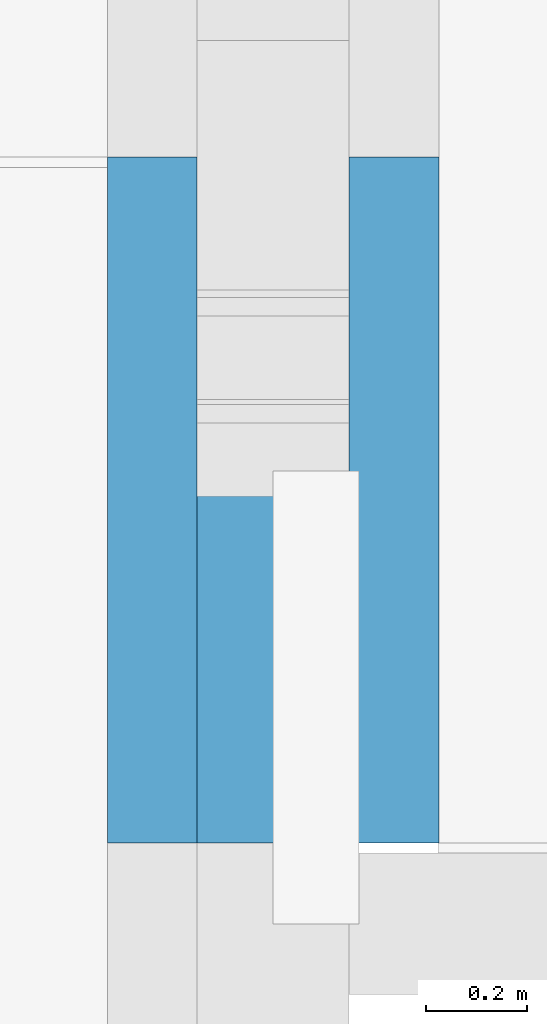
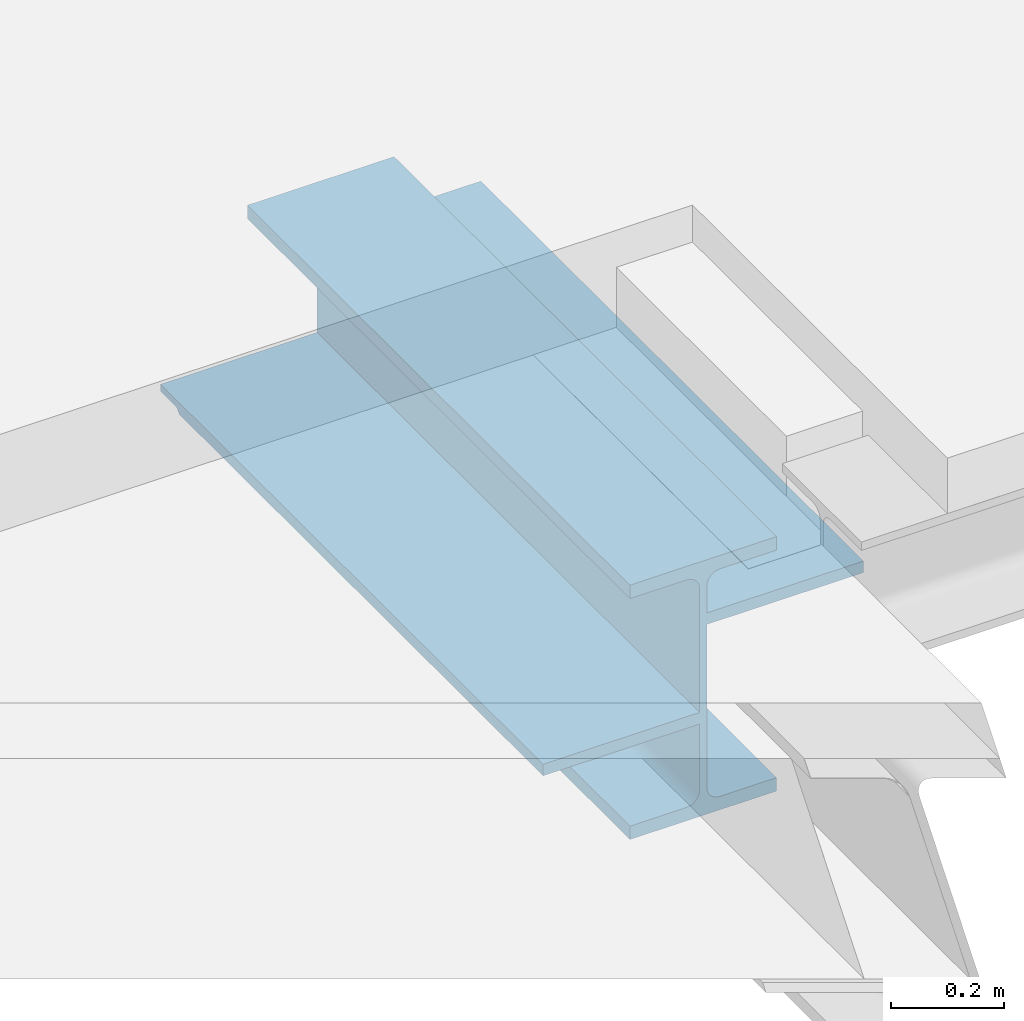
# One storey, part 44 of 50: 1 beam.
"""IFC2X3 building model written with IfcOpenShell, lengths in millimetres."""

from ifc_helpers import new_model, entity, si_unit, converted_unit, derived_unit, direction, frame, origin, place, context, subcontext, project, spatial, faceted_brep, source, transform, mapped, material, material_list, type_object, type_shapes, element, save


model = new_model("IFC2X3")

# Units and contexts
model_context = context("Model", 3, precision=0.01, world=origin(), true_north=direction((6.12303176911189e-17, 1.0)))
body_context = subcontext(model_context, "Body", "Model", "MODEL_VIEW")
ifc_project = project(units=[si_unit("LENGTHUNIT", "METRE", prefix="MILLI"), si_unit("AREAUNIT", "SQUARE_METRE", prefix="MILLI"), si_unit("VOLUMEUNIT", "CUBIC_METRE"), converted_unit("PLANEANGLEUNIT", "DEGREE", entity("IfcRatioMeasure", 0.0174532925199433), si_unit("PLANEANGLEUNIT", "RADIAN"), dimensions=[0, 0, 0, 0, 0, 0, 0]), si_unit("MASSUNIT", "GRAM", prefix="KILO"), derived_unit("MASSDENSITYUNIT", [(si_unit("MASSUNIT", "GRAM", prefix="KILO"), 1), (si_unit("LENGTHUNIT", "METRE"), -3)]), derived_unit("MOMENTOFINERTIAUNIT", [(si_unit("LENGTHUNIT", "METRE"), 4)]), si_unit("TIMEUNIT", "SECOND"), si_unit("FREQUENCYUNIT", "HERTZ"), si_unit("THERMODYNAMICTEMPERATUREUNIT", "DEGREE_CELSIUS"), derived_unit("THERMALTRANSMITTANCEUNIT", [(si_unit("MASSUNIT", "GRAM", prefix="KILO"), 1), (si_unit("THERMODYNAMICTEMPERATUREUNIT", "KELVIN"), -1), (si_unit("TIMEUNIT", "SECOND"), -3)]), derived_unit("VOLUMETRICFLOWRATEUNIT", [(si_unit("LENGTHUNIT", "METRE"), 3), (si_unit("TIMEUNIT", "SECOND"), -1)]), si_unit("ELECTRICCURRENTUNIT", "AMPERE"), si_unit("ELECTRICVOLTAGEUNIT", "VOLT"), si_unit("POWERUNIT", "WATT"), si_unit("FORCEUNIT", "NEWTON", prefix="KILO"), si_unit("ILLUMINANCEUNIT", "LUX"), si_unit("LUMINOUSFLUXUNIT", "LUMEN"), si_unit("LUMINOUSINTENSITYUNIT", "CANDELA"), derived_unit("USERDEFINED", [(si_unit("MASSUNIT", "GRAM", prefix="KILO"), -1), (si_unit("LENGTHUNIT", "METRE"), -2), (si_unit("TIMEUNIT", "SECOND"), 3), (si_unit("LUMINOUSFLUXUNIT", "LUMEN"), 1)]), derived_unit("LINEARVELOCITYUNIT", [(si_unit("LENGTHUNIT", "METRE"), 1), (si_unit("TIMEUNIT", "SECOND"), -1)]), si_unit("PRESSUREUNIT", "PASCAL"), derived_unit("USERDEFINED", [(si_unit("LENGTHUNIT", "METRE"), -2), (si_unit("MASSUNIT", "GRAM", prefix="KILO"), 1), (si_unit("TIMEUNIT", "SECOND"), -2)]), derived_unit("LINEARFORCEUNIT", [(si_unit("MASSUNIT", "GRAM", prefix="KILO"), 1), (si_unit("LENGTHUNIT", "METRE"), 1), (si_unit("TIMEUNIT", "SECOND"), -2), (si_unit("LENGTHUNIT", "METRE"), -1)]), derived_unit("PLANARFORCEUNIT", [(si_unit("MASSUNIT", "GRAM", prefix="KILO"), 1), (si_unit("LENGTHUNIT", "METRE"), 1), (si_unit("TIMEUNIT", "SECOND"), -2), (si_unit("LENGTHUNIT", "METRE"), -2)])], contexts=[model_context])

# Site, building, storey
site_placement = place(None, origin())
site = spatial("IfcSite", under=ifc_project, at=site_placement, Name="Theater aan de Parade", CompositionType="ELEMENT")
building_placement = place(site_placement, origin())
building = spatial("IfcBuilding", under=site, at=building_placement, Name="Theater aan de Parade", CompositionType="ELEMENT")
storey_placement = place(building_placement, frame((0.0, 0.0, 15820.0)))
storey = spatial("IfcBuildingStorey", under=building, at=storey_placement, Name="04 vierde verdieping", CompositionType="ELEMENT", Elevation=15820.0)

# Beam
ifc_material_1 = material(Name="00_PBT_MAT_staal_S355")
ifc_material_2 = material(Name="00_PBT_MAT_Lucht")
ifc_material_list = material_list([ifc_material_2, ifc_material_1])
beam_type = type_object("IfcBeamType", Name="28_PBT_SF_staal_H-profiel_met_oplegstrippen (void):S355_HE550B + oplegstrippen d=25_ h=115/325", PredefinedType="BEAM", material=ifc_material_list)
shared_shape = source(origin(), body_context, "Body", "Brep", [
    faceted_brep([(293.0, 0.0, 29.0), (177.499999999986, 0.0, 29.0), (177.499999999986, 0.0, 0.0), (477.499999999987, 0.0, 0.0), (477.499999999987, 0.0, 29.0), (362.0, 0.0, 29.0), (355.011885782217, 0.0, 29.9200026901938), (348.49999999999, 0.0, 32.6173140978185), (342.908116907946, 0.0, 36.9081169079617), (338.617314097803, 0.0, 42.499999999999), (335.920002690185, 0.0, 49.0118857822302), (335.0, 0.0, 56.0), (335.0, 0.0, 435.0), (335.0, 0.0, 494.0), (335.920002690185, 0.0, 500.988114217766), (338.617314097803, 0.0, 507.499999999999), (342.908116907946, 0.0, 513.091883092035), (348.49999999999, 0.0, 517.382685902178), (355.011885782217, 0.0, 520.079997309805), (362.0, 0.0, 521.0), (477.499999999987, 0.0, 521.0), (477.499999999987, 0.0, 550.0), (327.49999999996, 0.0, 550.0), (177.499999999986, 0.0, 550.0), (177.499999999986, 0.0, 521.0), (293.0, 0.0, 521.0), (299.988114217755, 0.0, 520.079997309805), (306.499999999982, 0.0, 517.38268590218), (312.091883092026, 0.0, 513.091883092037), (316.382685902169, 0.0, 507.499999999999), (319.079997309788, 0.0, 500.988114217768), (320.0, 0.0, 494.0), (320.0, 0.0, 56.0), (319.079997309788, 0.0, 49.0118857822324), (316.382685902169, 0.0, 42.5000000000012), (312.091883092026, 0.0, 36.9081169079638), (306.499999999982, 0.0, 32.6173140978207), (299.988114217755, 0.0, 29.920002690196), (316.382685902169, 1354.80333600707, 507.499999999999), (312.091883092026, 1354.80333600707, 513.091883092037), (306.499999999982, 1354.80333600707, 517.38268590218), (299.988114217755, 1354.80333600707, 520.079997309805), (293.0, 1354.80333600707, 521.0), (177.499999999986, 1354.80333600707, 521.0), (177.499999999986, 1354.80333600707, 550.0), (477.499999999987, 1354.80333600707, 550.0), (477.499999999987, 1354.80333600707, 521.0), (362.0, 1354.80333600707, 521.0), (355.011885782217, 1354.80333600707, 520.079997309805), (348.49999999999, 1354.80333600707, 517.382685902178), (342.908116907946, 1354.80333600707, 513.091883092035), (338.617314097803, 1354.80333600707, 507.499999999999), (335.920002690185, 1354.80333600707, 500.988114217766), (335.0, 1354.80333600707, 494.0), (335.0, 1354.80333600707, 266.0), (335.0, 1354.80333600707, 210.0), (320.0, 1354.80333600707, 210.0), (320.0, 1354.80333600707, 266.0), (320.0, 1354.80333600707, 494.0), (319.079997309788, 1354.80333600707, 500.988114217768), (177.499999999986, 734.80333600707, 550.0), (177.499999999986, 734.80333600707, 521.0), (177.499999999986, 1117.71206565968, 29.0), (177.499999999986, 1088.71206565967, 0.0), (293.0, 1173.36902755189, 521.0), (293.0, 991.934793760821, 521.0), (293.0, 725.737159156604, 521.0), (293.0, 544.302850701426, 521.0), (293.0, 362.868616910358, 521.0), (293.0, 181.434308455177, 521.0), (362.0, 181.430868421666, 521.0), (362.0, 362.870977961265, 521.0), (362.0, 495.970799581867, 521.0), (362.0, 629.070621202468, 521.0), (362.0, 810.501489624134, 521.0), (362.0, 991.9323580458, 521.0), (362.0, 1173.3724675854, 521.0), (477.499999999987, 734.80333600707, 521.0), (303.332452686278, 295.780139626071, 518.944747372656), (309.436558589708, 200.495676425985, 515.420540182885), (301.252913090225, 152.34128538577, 519.707769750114), (317.944747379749, 200.66671762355, 504.332452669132), (309.436558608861, 1154.30765992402, 515.42054016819), (314.420540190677, 130.651466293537, 510.436558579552), (318.311347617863, 346.902101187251, 503.398706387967), (319.515191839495, 272.151429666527, 499.093584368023), (314.42054020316, 1176.94936763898, 510.436558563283), (301.252913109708, 1202.46205067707, 519.707769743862), (301.812218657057, 795.284989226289, 519.521457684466), (299.442713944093, 544.302860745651, 520.2200579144), (308.882992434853, 931.507483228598, 515.834160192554), (303.332452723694, 1059.02319617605, 518.944747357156), (318.847848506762, 654.291639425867, 501.803122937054), (319.575310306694, 429.417977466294, 498.769998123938), (318.314601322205, 495.967382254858, 503.389939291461), (319.59614650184, 127.647156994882, 498.652417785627), (320.0, 181.433990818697, 494.0), (314.42054022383, 925.629728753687, 510.436558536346), (314.42054019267, 296.310558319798, 510.436558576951), (314.805492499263, 559.744227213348, 509.922326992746), (304.643130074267, 492.161807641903, 518.360573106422), (309.436558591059, 534.387352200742, 515.420540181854), (308.221425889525, 367.441514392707, 516.300407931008), (317.944747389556, 1103.96152209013, 504.332452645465), (298.089963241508, 917.577526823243, 520.515887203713), (297.839520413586, 1082.65190596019, 520.562737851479), (297.839520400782, 272.15143046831, 520.562737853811), (318.739096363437, 969.619190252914, 502.154686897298), (319.56379797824, 1082.65190702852, 498.833698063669), (320.0, 991.934907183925, 494.0), (319.597861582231, 1227.47854276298, 498.642602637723), (305.90430017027, 668.438270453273, 517.716640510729), (318.762311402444, 819.592130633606, 502.081046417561), (317.082339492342, 892.715532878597, 506.208231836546), (316.776591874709, 709.694384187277, 506.793501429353), (320.0, 362.868428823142, 494.0), (311.721009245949, 737.803270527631, 513.455688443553), (320.0, 810.500469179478, 494.0), (320.0, 1173.36889800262, 494.0), (300.07107585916, 400.87812739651, 520.057626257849), (320.0, 629.066031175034, 494.0), (320.0, 495.967453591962, 494.0), (320.0, 1298.71206565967, 210.0), (320.0, 1144.71206565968, 56.0), (320.0, 963.278060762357, 56.0), (320.0, 781.843606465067, 56.0), (320.0, 600.409152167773, 56.0), (320.0, 418.974697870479, 56.0), (320.0, 209.487348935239, 56.0), (303.332452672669, 133.73822767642, 31.0552526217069), (302.686071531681, 980.63696176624, 30.7972220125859), (307.439415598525, 984.137476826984, 33.1854590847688), (304.714860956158, 1120.38590622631, 31.6738405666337), (309.436558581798, 178.361362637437, 34.5794598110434), (314.420540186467, 204.693632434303, 39.5634414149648), (311.530853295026, 365.894640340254, 36.3631093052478), (317.944747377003, 137.449371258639, 45.6675473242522), (317.944747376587, 308.520873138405, 45.6675473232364), (312.205167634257, 936.630405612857, 37.0220776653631), (307.527456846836, 820.964049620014, 33.2414192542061), (312.463835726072, 751.594200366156, 37.287461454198), (319.399362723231, 382.169027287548, 50.33663988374), (319.399189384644, 222.985122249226, 50.3358319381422), (312.425062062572, 566.257060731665, 37.2472145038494), (315.566596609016, 436.540278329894, 41.1760761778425), (316.276059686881, 625.96854439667, 42.3169796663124), (315.935800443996, 992.711685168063, 41.7539809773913), (314.10945002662, 1127.87784100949, 39.1657753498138), (317.326159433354, 1132.9972047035, 44.285139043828), (318.55479702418, 946.989207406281, 47.284935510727), (318.889751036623, 715.699773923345, 48.337050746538), (319.3230536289, 1138.70400044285, 49.9919347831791), (298.58690221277, 217.790358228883, 29.5843507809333), (298.609102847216, 380.984303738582, 29.5890559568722), (293.0, 391.975256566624, 29.0), (318.526973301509, 510.801336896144, 47.2037716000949), (293.0, 181.435267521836, 29.0), (297.855599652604, 971.67665382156, 29.440196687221), (299.008065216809, 1118.38901203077, 29.6769463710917), (293.0, 1117.71206565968, 29.0), (300.279235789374, 845.560636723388, 29.999755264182), (309.834224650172, 1123.60261563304, 34.8905499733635), (316.022907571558, 829.648872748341, 41.8951878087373), (298.103359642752, 664.126350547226, 29.4866878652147), (293.0, 754.84366111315, 29.0), (293.0, 573.408393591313, 29.0), (308.016488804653, 492.808002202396, 33.5610814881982), (293.0, 936.278928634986, 29.0), (303.15995734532, 580.760360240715, 30.9844994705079), (308.752200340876, 658.6417280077, 34.0712931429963), (303.332452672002, 301.84248884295, 31.055252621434), (302.813664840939, 441.042773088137, 30.8466307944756), (307.581698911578, 347.797167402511, 33.276134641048), (297.615711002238, 521.414586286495, 29.3974585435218), (477.499999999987, 1117.71206565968, 29.0), (362.0, 1117.71206565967, 29.0), (362.0, 936.278230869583, 29.0), (362.0, 754.844396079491, 29.0), (362.0, 573.410561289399, 29.0), (362.0, 391.974764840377, 29.0), (362.0, 181.43383479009, 29.0), (477.499999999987, 1088.71206565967, 0.0), (477.499999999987, 734.80333600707, 550.0), (356.413097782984, 217.790358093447, 29.5843507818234), (351.66754732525, 133.738227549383, 31.055252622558), (337.673840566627, 1132.9972047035, 44.2851390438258), (335.944150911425, 872.560636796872, 48.9223783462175), (339.064199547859, 992.711685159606, 41.7539809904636), (348.450714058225, 501.822967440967, 32.6458386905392), (353.921131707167, 684.864421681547, 30.2370054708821), (346.515112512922, 656.254016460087, 33.8817211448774), (345.563441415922, 178.361362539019, 34.5794598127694), (335.0, 781.844863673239, 56.0), (335.0, 963.278464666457, 56.0), (337.055252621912, 137.449371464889, 45.6675473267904), (338.977092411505, 829.64887277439, 41.8951878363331), (342.794832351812, 936.630405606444, 37.0220776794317), (345.165775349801, 1123.60261563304, 34.8905499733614), (347.56058438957, 984.137476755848, 33.1854590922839), (350.285139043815, 1120.38590622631, 31.6738405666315), (340.890549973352, 1127.87784100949, 39.1657753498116), (353.011509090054, 929.882742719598, 30.540089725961), (355.991934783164, 1118.38901203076, 29.6769463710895), (337.055252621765, 308.520873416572, 45.6675473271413), (335.600810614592, 222.98512242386, 50.3358319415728), (340.579459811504, 204.693632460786, 39.5634414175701), (335.0, 209.490598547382, 56.0), (335.676946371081, 1138.70400044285, 49.9919347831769), (336.572669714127, 592.459514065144, 46.9197536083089), (335.0, 600.411262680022, 56.0), (335.578090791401, 387.32705147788, 50.4427782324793), (347.472543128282, 820.964049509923, 33.2414192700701), (342.841785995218, 751.285622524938, 36.9746790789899), (336.937271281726, 745.451727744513, 45.9571105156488), (335.436011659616, 696.428547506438, 51.1673481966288), (336.850220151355, 450.96811853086, 46.17714025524), (339.433403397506, 436.540277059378, 41.1760761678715), (339.092636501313, 603.016816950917, 41.708299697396), (343.469146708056, 365.894640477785, 36.3631093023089), (351.667547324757, 301.842488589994, 31.0552526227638), (355.006802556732, 481.238544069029, 29.9213652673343), (335.0, 1144.71206565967, 56.0), (342.574937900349, 566.257060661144, 37.2472145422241), (347.190509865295, 313.22375188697, 33.4239285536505), (335.0, 418.977661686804, 56.0), (335.0, 1298.71206565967, 210.0), (335.0, 1173.36896696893, 494.0), (335.0, 991.934597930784, 494.0), (335.0, 725.737476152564, 494.0), (335.0, 544.303107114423, 494.0), (335.0, 362.868738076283, 494.0), (335.0, 181.43436903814, 494.0), (337.055252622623, 295.78013852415, 504.332452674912), (340.579459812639, 200.495675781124, 510.436558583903), (336.292230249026, 152.341284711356, 502.2529130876), (351.667547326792, 200.666717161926, 518.944747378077), (340.579459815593, 1154.30766019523, 510.436558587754), (345.563441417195, 130.651466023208, 515.420540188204), (352.601293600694, 346.902100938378, 519.311347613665), (356.906415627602, 272.151428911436, 520.515191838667), (345.563441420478, 1176.94936763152, 515.42054019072), (336.292230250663, 1202.46205122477, 502.252913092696), (336.478542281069, 795.284991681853, 502.812218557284), (335.779942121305, 544.302857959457, 500.442714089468), (340.165839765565, 931.507483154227, 509.8829923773), (337.055252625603, 1059.02319729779, 504.332452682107), (354.196877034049, 654.291639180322, 519.847848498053), (357.230001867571, 429.417977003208, 520.57531030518), (352.610060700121, 495.967382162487, 519.314601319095), (357.347582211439, 127.647156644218, 520.59614650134), (345.563441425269, 925.629728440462, 515.4205401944), (345.563441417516, 296.310557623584, 515.420540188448), (346.07767300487, 559.744229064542, 515.805492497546), (337.639426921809, 492.161800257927, 505.643130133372), (340.579459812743, 534.387350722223, 510.436558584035), (339.699592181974, 367.44151325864, 509.221426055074), (351.667547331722, 1103.9615219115, 518.944747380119), (335.484112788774, 917.577528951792, 499.089963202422), (335.437262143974, 1082.65190694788, 498.839520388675), (335.437262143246, 272.151428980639, 498.839520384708), (353.845313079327, 969.619189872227, 519.739096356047), (357.166301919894, 1082.65190719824, 520.56379797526), (357.357397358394, 1227.47854287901, 520.597861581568), (338.283359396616, 668.438267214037, 506.904300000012), (353.918953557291, 819.592129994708, 519.76231139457), (349.791768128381, 892.715532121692, 518.082339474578), (349.206498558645, 709.694384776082, 517.776591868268), (342.544311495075, 737.80327031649, 512.72100918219), (335.942373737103, 400.878125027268, 501.071075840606)], [[[0, 1, 2, 3, 4, 5, 6, 7, 8, 9, 10, 11, 12, 13, 14, 15, 16, 17, 18, 19, 20, 21, 22, 23, 24, 25, 26, 27, 28, 29, 30, 31, 32, 33, 34, 35, 36, 37]], [[38, 39, 40, 41, 42, 43, 44, 45, 46, 47, 48, 49, 50, 51, 52, 53, 54, 55, 56, 57, 58, 59]], [[24, 23, 60, 44, 43, 61]], [[2, 1, 62, 63]], [[25, 24, 61, 43, 42, 64, 65, 66, 67, 68, 69]], [[20, 19, 70, 71, 72, 73, 74, 75, 76, 47, 46, 77]], [[78, 79, 80]], [[30, 29, 81]], [[39, 82, 40]], [[83, 29, 28]], [[84, 85, 81]], [[27, 80, 79]], [[39, 86, 82]], [[39, 38, 86]], [[87, 41, 40]], [[88, 89, 66]], [[90, 88, 91]], [[92, 93, 94]], [[95, 96, 31]], [[82, 86, 97]], [[98, 83, 79]], [[94, 98, 99]], [[100, 101, 102]], [[82, 87, 40]], [[64, 42, 41]], [[26, 25, 69]], [[59, 103, 38]], [[104, 88, 66]], [[64, 105, 65]], [[68, 106, 69]], [[107, 108, 109]], [[90, 82, 97]], [[81, 83, 98]], [[103, 97, 86]], [[78, 80, 106]], [[108, 103, 110]], [[79, 28, 27]], [[111, 100, 89]], [[112, 113, 107]], [[112, 92, 114]], [[114, 113, 112]], [[91, 82, 90]], [[96, 85, 115]], [[84, 81, 98]], [[28, 79, 83]], [[101, 98, 102]], [[116, 114, 99]], [[107, 117, 112]], [[109, 108, 118]], [[110, 59, 58]], [[64, 87, 105]], [[86, 38, 103]], [[95, 85, 96]], [[105, 91, 104]], [[90, 97, 116]], [[68, 67, 119]], [[88, 111, 89]], [[88, 90, 111]], [[101, 116, 99]], [[101, 99, 98]], [[114, 92, 94]], [[106, 68, 119]], [[100, 119, 89]], [[120, 121, 115, 93]], [[30, 81, 95]], [[118, 108, 110]], [[103, 108, 107]], [[65, 105, 104]], [[91, 105, 87]], [[65, 104, 66]], [[88, 104, 91]], [[82, 91, 87]], [[41, 87, 64]], [[26, 69, 80]], [[78, 106, 119]], [[106, 80, 69]], [[26, 80, 27]], [[97, 103, 113]], [[112, 117, 92]], [[107, 113, 103]], [[114, 116, 97]], [[97, 113, 114]], [[99, 114, 94]], [[67, 66, 89]], [[115, 85, 93]], [[120, 93, 92]], [[84, 94, 93]], [[118, 110, 58]], [[59, 110, 103]], [[78, 102, 79]], [[119, 67, 89]], [[119, 100, 78]], [[111, 101, 100]], [[111, 116, 101]], [[116, 111, 90]], [[100, 102, 78]], [[79, 102, 98]], [[85, 84, 93]], [[94, 84, 98]], [[85, 95, 81]], [[30, 95, 31]], [[29, 83, 81]], [[120, 92, 117]], [[117, 107, 109]], [[31, 96, 115, 121, 120, 117, 109, 118, 58, 57, 56, 122, 123, 124, 125, 126, 127, 128, 32]], [[36, 129, 37]], [[130, 131, 132]], [[133, 134, 135]], [[134, 136, 137]], [[138, 139, 140]], [[141, 142, 128]], [[143, 144, 145]], [[146, 147, 138]], [[147, 146, 148]], [[35, 134, 133]], [[125, 149, 150]], [[151, 148, 149]], [[152, 153, 154]], [[145, 155, 150]], [[156, 0, 37]], [[157, 158, 159]], [[35, 34, 134]], [[158, 130, 132]], [[130, 157, 160]], [[161, 132, 131]], [[33, 136, 34]], [[146, 162, 149]], [[163, 164, 165]], [[161, 138, 147]], [[143, 166, 135]], [[136, 33, 142]], [[164, 163, 160]], [[150, 149, 162]], [[160, 167, 164]], [[139, 160, 168]], [[143, 169, 166]], [[152, 170, 153]], [[162, 138, 140]], [[139, 138, 131]], [[149, 124, 151]], [[133, 36, 35]], [[32, 142, 33]], [[144, 135, 134]], [[155, 126, 150]], [[137, 155, 144]], [[36, 133, 129]], [[129, 170, 152]], [[166, 171, 172]], [[170, 133, 172]], [[143, 135, 144]], [[144, 155, 145]], [[137, 144, 134]], [[126, 125, 150]], [[142, 141, 137]], [[143, 145, 140]], [[162, 145, 150]], [[148, 146, 149]], [[162, 146, 138]], [[161, 131, 138]], [[160, 139, 130]], [[131, 130, 139]], [[157, 167, 160]], [[167, 157, 159]], [[157, 130, 158]], [[162, 140, 145]], [[127, 126, 141, 128]], [[169, 143, 140]], [[135, 166, 172]], [[139, 168, 169]], [[166, 169, 168]], [[139, 169, 140]], [[34, 136, 134]], [[137, 136, 142]], [[141, 155, 137]], [[32, 128, 142]], [[155, 141, 126]], [[156, 37, 152]], [[170, 129, 133]], [[129, 152, 37]], [[156, 152, 154]], [[173, 165, 154]], [[153, 170, 171]], [[168, 160, 163]], [[173, 163, 165]], [[173, 171, 168]], [[153, 171, 173]], [[168, 171, 166]], [[163, 173, 168]], [[153, 173, 154]], [[135, 172, 133]], [[170, 172, 171]], [[123, 151, 124]], [[149, 125, 124]], [[1, 0, 156, 154, 165, 164, 167, 159, 62]], [[5, 4, 174, 175, 176, 177, 178, 179, 180]], [[3, 2, 63, 181]], [[4, 3, 181, 174]], [[21, 20, 77, 46, 45, 182]], [[183, 184, 6]], [[185, 186, 187]], [[188, 189, 190]], [[191, 8, 7]], [[192, 186, 193]], [[6, 184, 7]], [[10, 9, 194]], [[195, 196, 187]], [[197, 198, 199]], [[197, 200, 196]], [[177, 201, 189]], [[202, 199, 201]], [[194, 203, 204]], [[8, 205, 9]], [[204, 206, 11]], [[193, 186, 207]], [[208, 209, 210]], [[186, 185, 207]], [[189, 201, 211]], [[200, 185, 187]], [[196, 195, 212]], [[198, 211, 201]], [[213, 186, 214]], [[9, 205, 194]], [[215, 216, 217]], [[205, 191, 218]], [[205, 8, 191]], [[188, 219, 220]], [[207, 221, 193]], [[213, 195, 186]], [[222, 217, 216]], [[204, 203, 210]], [[218, 223, 188]], [[201, 176, 202]], [[197, 196, 198]], [[211, 196, 212]], [[177, 189, 178]], [[188, 223, 219]], [[216, 218, 222]], [[204, 210, 206]], [[191, 223, 218]], [[180, 179, 183]], [[6, 5, 180]], [[184, 223, 191]], [[203, 205, 216]], [[188, 222, 218]], [[190, 212, 222]], [[189, 188, 220]], [[218, 216, 205]], [[210, 203, 215]], [[199, 198, 201]], [[211, 198, 196]], [[200, 187, 196]], [[195, 187, 186]], [[220, 178, 189]], [[179, 220, 183]], [[211, 212, 190]], [[217, 222, 212]], [[211, 190, 189]], [[188, 190, 222]], [[208, 217, 213]], [[195, 217, 212]], [[204, 11, 10]], [[203, 194, 205]], [[194, 204, 10]], [[224, 206, 210, 209]], [[209, 214, 192]], [[208, 210, 215]], [[208, 215, 217]], [[215, 203, 216]], [[7, 184, 191]], [[178, 220, 179]], [[219, 184, 183]], [[220, 219, 183]], [[180, 183, 6]], [[195, 213, 217]], [[214, 208, 213]], [[208, 214, 209]], [[192, 214, 186]], [[175, 202, 176]], [[201, 177, 176]], [[219, 223, 184]], [[12, 11, 206, 224, 209, 192, 193, 221, 225, 55, 54, 53, 226, 227, 228, 229, 230, 231, 13]], [[232, 233, 234]], [[18, 17, 235]], [[50, 236, 51]], [[237, 17, 16]], [[238, 239, 235]], [[15, 234, 233]], [[50, 240, 236]], [[50, 49, 240]], [[241, 52, 51]], [[242, 243, 228]], [[244, 242, 245]], [[246, 247, 248]], [[249, 70, 19]], [[236, 240, 250]], [[251, 237, 233]], [[248, 251, 252]], [[253, 254, 255]], [[236, 241, 51]], [[226, 53, 52]], [[14, 13, 231]], [[48, 256, 49]], [[257, 242, 228]], [[226, 258, 227]], [[230, 259, 231]], [[260, 261, 75]], [[244, 236, 250]], [[235, 237, 251]], [[256, 250, 240]], [[232, 234, 259]], [[261, 256, 262]], [[233, 16, 15]], [[263, 253, 243]], [[264, 265, 260]], [[264, 246, 266]], [[266, 265, 264]], [[245, 236, 244]], [[70, 239, 71]], [[238, 235, 251]], [[16, 233, 237]], [[254, 251, 255]], [[267, 266, 252]], [[260, 74, 264]], [[75, 261, 76]], [[262, 48, 47]], [[226, 241, 258]], [[240, 49, 256]], [[249, 239, 70]], [[258, 245, 257]], [[244, 250, 267]], [[230, 229, 268]], [[242, 263, 243]], [[242, 244, 263]], [[254, 267, 252]], [[254, 252, 251]], [[266, 246, 248]], [[259, 230, 268]], [[253, 268, 243]], [[73, 72, 71, 247]], [[18, 235, 249]], [[76, 261, 262]], [[256, 261, 260]], [[227, 258, 257]], [[245, 258, 241]], [[227, 257, 228]], [[242, 257, 245]], [[236, 245, 241]], [[52, 241, 226]], [[14, 231, 234]], [[232, 259, 268]], [[259, 234, 231]], [[14, 234, 15]], [[250, 256, 265]], [[264, 74, 246]], [[260, 265, 256]], [[266, 267, 250]], [[250, 265, 266]], [[252, 266, 248]], [[229, 228, 243]], [[71, 239, 247]], [[73, 247, 246]], [[238, 248, 247]], [[76, 262, 47]], [[48, 262, 256]], [[232, 255, 233]], [[268, 229, 243]], [[268, 253, 232]], [[263, 254, 253]], [[263, 267, 254]], [[267, 263, 244]], [[253, 255, 232]], [[233, 255, 251]], [[239, 238, 247]], [[248, 238, 251]], [[239, 249, 235]], [[18, 249, 19]], [[17, 237, 235]], [[73, 246, 74]], [[74, 260, 75]], [[22, 21, 182, 45, 44, 60, 23]], [[122, 56, 55, 225]], [[148, 151, 123, 122, 225, 221, 207, 185, 200, 197, 199, 202, 175, 174, 181, 63, 62, 159, 158, 132, 161, 147]]]),
    faceted_brep([(655.0, 0.0, 435.0), (335.0, 0.0, 435.0), (335.0, 0.0, 410.0), (655.0, 0.0, 410.0), (655.0, 1354.80333600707, 435.0), (655.0, 1354.80333600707, 410.0), (335.0, 1354.80333600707, 410.0), (335.0, 1354.80333600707, 435.0), (497.499999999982, 1354.80333600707, 435.0), (335.0, 734.80333600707, 435.0)], [[[0, 1, 2, 3]], [[4, 5, 6, 7, 8]], [[1, 0, 4, 8, 7, 9]], [[0, 3, 5, 4]], [[3, 2, 6, 5]], [[2, 1, 9, 7, 6]]]),
    faceted_brep([(0.0, 0.0, 225.0), (0.0, 0.0, 210.0), (0.0, 0.0, 200.0), (320.0, 0.0, 200.0), (320.0, 0.0, 210.0), (320.0, 0.0, 225.0), (157.499999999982, 0.0, 225.0), (0.0, 1354.80333600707, 225.0), (320.0, 1354.80333600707, 225.0), (320.0, 1354.80333600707, 210.0), (177.499999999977, 1354.80333600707, 210.0), (0.0, 1354.80333600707, 210.0), (0.0, 1288.71206565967, 200.0), (320.0, 1288.71206565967, 200.0), (0.0, 1298.71206565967, 210.0), (320.0, 1298.71206565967, 210.0)], [[[0, 1, 2, 3, 4, 5, 6]], [[7, 8, 9, 10, 11]], [[3, 2, 12, 13]], [[2, 1, 0, 7, 11, 14, 12]], [[0, 6, 5, 8, 7]], [[5, 4, 3, 13, 15, 9, 8]], [[15, 14, 11, 10, 9]], [[14, 15, 13, 12]]]),
])
type_shapes(beam_type, [shared_shape])
beam_placement = place(storey_placement, frame((64017.0520755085, 14982.0, -215.0)))
element("IfcBeam", 1, at=beam_placement, inside=storey, type_object=beam_type, material=ifc_material_1, Name="28_PBT_SF_staal_H-profiel_met_oplegstrippen (void):S355_HE550B + oplegstrippen d=25_ h=115/325", ObjectType="28_PBT_SF_staal_H-profiel_met_oplegstrippen (void):S355_HE550B + oplegstrippen d=25_ h=115/325", context=body_context, shape_type="MappedRepresentation", body=[
    mapped(shared_shape, transform((0.0, 0.0, 0.0), scale=1.0)),
])

save(model, "model.ifc")
